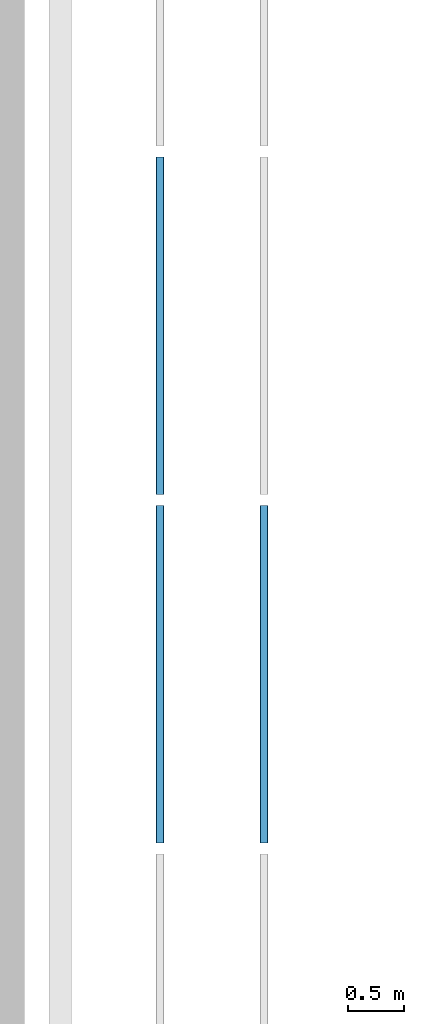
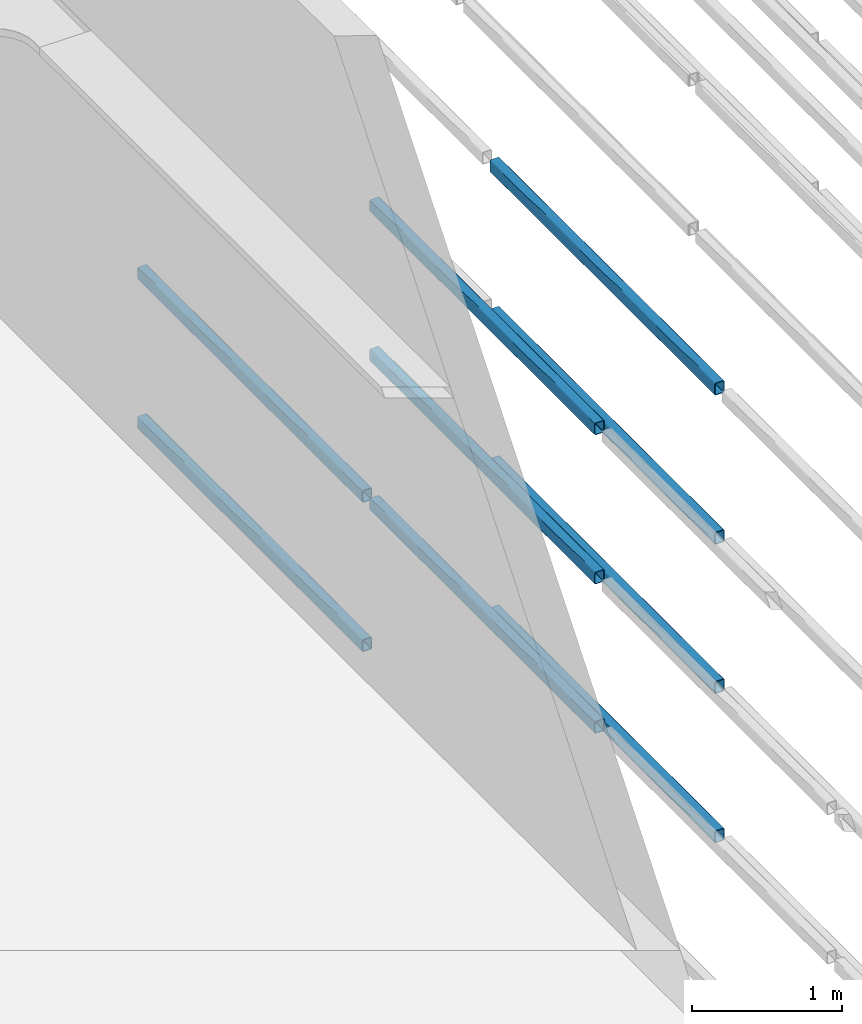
# One storey, part 10 of 290: 9 beams.
"""IFC2X3 building model written with IfcOpenShell, lengths in metres."""

from ifc_helpers import new_model, entity, si_unit, converted_unit, derived_unit, direction, frame, frame_2d, origin, place, context, subcontext, project, spatial, polyline, circle_curve, parameter, trimmed, segment, composite_curve, outline, extrude, material, type_object, element, save


model = new_model("IFC2X3")

# Units and contexts
model_context = context("Model", 3, precision=1e-05, world=origin(), true_north=direction((6.12303176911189e-17, 1.0)))
body_context = subcontext(model_context, "Body", "Model", "MODEL_VIEW")
ifc_project = project(units=[si_unit("LENGTHUNIT", "METRE"), si_unit("AREAUNIT", "SQUARE_METRE"), si_unit("VOLUMEUNIT", "CUBIC_METRE"), converted_unit("PLANEANGLEUNIT", "DEGREE", entity("IfcRatioMeasure", 0.0174532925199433), si_unit("PLANEANGLEUNIT", "RADIAN"), dimensions=[0, 0, 0, 0, 0, 0, 0]), si_unit("MASSUNIT", "GRAM", prefix="KILO"), derived_unit("MASSDENSITYUNIT", [(si_unit("MASSUNIT", "GRAM", prefix="KILO"), 1), (si_unit("LENGTHUNIT", "METRE"), -3)]), derived_unit("MOMENTOFINERTIAUNIT", [(si_unit("LENGTHUNIT", "METRE"), 4)]), si_unit("TIMEUNIT", "SECOND"), si_unit("FREQUENCYUNIT", "HERTZ"), si_unit("THERMODYNAMICTEMPERATUREUNIT", "DEGREE_CELSIUS"), derived_unit("THERMALTRANSMITTANCEUNIT", [(si_unit("MASSUNIT", "GRAM", prefix="KILO"), 1), (si_unit("THERMODYNAMICTEMPERATUREUNIT", "KELVIN"), -1), (si_unit("TIMEUNIT", "SECOND"), -3)]), derived_unit("VOLUMETRICFLOWRATEUNIT", [(si_unit("LENGTHUNIT", "METRE"), 3), (si_unit("TIMEUNIT", "SECOND"), -1)]), si_unit("ELECTRICCURRENTUNIT", "AMPERE"), si_unit("ELECTRICVOLTAGEUNIT", "VOLT"), si_unit("POWERUNIT", "WATT"), si_unit("FORCEUNIT", "NEWTON", prefix="KILO"), si_unit("ILLUMINANCEUNIT", "LUX"), si_unit("LUMINOUSFLUXUNIT", "LUMEN"), si_unit("LUMINOUSINTENSITYUNIT", "CANDELA"), derived_unit("USERDEFINED", [(si_unit("MASSUNIT", "GRAM", prefix="KILO"), -1), (si_unit("LENGTHUNIT", "METRE"), -2), (si_unit("TIMEUNIT", "SECOND"), 3), (si_unit("LUMINOUSFLUXUNIT", "LUMEN"), 1)]), derived_unit("LINEARVELOCITYUNIT", [(si_unit("LENGTHUNIT", "METRE"), 1), (si_unit("TIMEUNIT", "SECOND"), -1)]), si_unit("PRESSUREUNIT", "PASCAL"), derived_unit("USERDEFINED", [(si_unit("LENGTHUNIT", "METRE"), -2), (si_unit("MASSUNIT", "GRAM", prefix="KILO"), 1), (si_unit("TIMEUNIT", "SECOND"), -2)]), derived_unit("LINEARFORCEUNIT", [(si_unit("MASSUNIT", "GRAM", prefix="KILO"), 1), (si_unit("LENGTHUNIT", "METRE"), 1), (si_unit("TIMEUNIT", "SECOND"), -2), (si_unit("LENGTHUNIT", "METRE"), -1)]), derived_unit("PLANARFORCEUNIT", [(si_unit("MASSUNIT", "GRAM", prefix="KILO"), 1), (si_unit("LENGTHUNIT", "METRE"), 1), (si_unit("TIMEUNIT", "SECOND"), -2), (si_unit("LENGTHUNIT", "METRE"), -2)])], contexts=[model_context])

# Site, building, storey
site_placement = place(None, origin())
site = spatial("IfcSite", under=ifc_project, at=site_placement, Name="Default", CompositionType="ELEMENT")
building_placement = place(site_placement, origin())
building = spatial("IfcBuilding", under=site, at=building_placement, CompositionType="ELEMENT")
storey_placement = place(building_placement, frame((0.0, 0.0, 4.0)))
storey = spatial("IfcBuildingStorey", under=building, at=storey_placement, Name="01_OG", CompositionType="ELEMENT", Elevation=4.0)

# Beams
ifc_material = material(Name="Metall - Baustahl S235 blau")
beam_type = type_object("IfcBeamType", Name="RHS Träger (EN 10219-2):RHS 100 x 75 x 5", PredefinedType="NOTDEFINED")
beam_1_placement = place(storey_placement, frame((-206.415111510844, 30.248088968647, 0.0150000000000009), z_axis=(0.0, 0.0, 1.0), x_axis=(0.0, 1.0, 0.0)))
element("IfcBeam", 1, at=beam_1_placement, inside=storey, type_object=beam_type, material=ifc_material, Name="RHS Träger (EN 10219-2):RHS 100 x 75 x 5", ObjectType="RHS Träger (EN 10219-2):RHS 100 x 75 x 5", context=body_context, shape_type="SweptSolid", body=[
    extrude(outline(composite_curve([segment(trimmed(circle_curve(frame_2d((-0.0274999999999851, -0.0400000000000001), x_axis=(1.0, 0.0)), 0.01), [parameter(180.0)], [parameter(270.0)], True, "PARAMETER"), True, "CONTINUOUS"), segment(polyline([(-0.0274999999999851, -0.05), (0.0274999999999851, -0.05)]), True, "CONTINUOUS"), segment(trimmed(circle_curve(frame_2d((0.0274999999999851, -0.0400000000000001), x_axis=(1.0, 0.0)), 0.01), [parameter(270.0)], [parameter(5.08888749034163e-14)], True, "PARAMETER"), True, "CONTINUOUS"), segment(polyline([(0.0375000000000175, -0.0400000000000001), (0.0375000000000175, 0.0400000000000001)]), True, "CONTINUOUS"), segment(trimmed(circle_curve(frame_2d((0.0274999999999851, 0.0400000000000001), x_axis=(1.0, 0.0)), 0.01), [parameter(360.0)], [parameter(89.9999999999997)], True, "PARAMETER"), True, "CONTINUOUS"), segment(polyline([(0.0274999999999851, 0.05), (-0.0274999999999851, 0.05)]), True, "CONTINUOUS"), segment(trimmed(circle_curve(frame_2d((-0.0274999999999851, 0.0400000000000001), x_axis=(1.0, 0.0)), 0.01), [parameter(90.0000000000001)], [parameter(180.0)], True, "PARAMETER"), True, "CONTINUOUS"), segment(polyline([(-0.0374999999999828, 0.0400000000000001), (-0.0374999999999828, -0.0400000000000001)]), True, "CONTINUOUS")], self_intersect=False), holes=[composite_curve([segment(polyline([(0.0274999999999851, -0.0450000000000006), (-0.0274999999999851, -0.0450000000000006)]), True, "CONTINUOUS"), segment(trimmed(circle_curve(frame_2d((-0.0274999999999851, -0.0400000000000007), x_axis=(1.0, 0.0)), 0.005), [parameter(180.0)], [parameter(270.0)], True, "PARAMETER"), False, "CONTINUOUS"), segment(polyline([(-0.0325000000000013, -0.0400000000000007), (-0.0325000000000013, 0.039999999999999)]), True, "CONTINUOUS"), segment(trimmed(circle_curve(frame_2d((-0.0274999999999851, 0.039999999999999), x_axis=(1.0, 0.0)), 0.005), [parameter(90.0000000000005)], [parameter(180.0)], True, "PARAMETER"), False, "CONTINUOUS"), segment(polyline([(-0.0274999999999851, 0.044999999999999), (0.0274999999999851, 0.044999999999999)]), True, "CONTINUOUS"), segment(trimmed(circle_curve(frame_2d((0.0274999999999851, 0.039999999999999), x_axis=(1.0, 0.0)), 0.005), [parameter(0.0)], [parameter(90.0000000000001)], True, "PARAMETER"), False, "CONTINUOUS"), segment(polyline([(0.0325000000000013, 0.039999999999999), (0.0325000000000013, -0.0400000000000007)]), True, "CONTINUOUS"), segment(trimmed(circle_curve(frame_2d((0.0274999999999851, -0.0400000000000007), x_axis=(1.0, 0.0)), 0.005), [parameter(270.0)], [parameter(4.07110999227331e-13)], True, "PARAMETER"), False, "CONTINUOUS")], self_intersect=False)]), frame((9.9999999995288e-05, 0.0375000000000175, -0.0500000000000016), z_axis=(1.0, 0.0, 0.0), x_axis=(0.0, -1.0, 0.0)), (0.0, 0.0, 1.0), 2.9998),
])
beam_2_placement = place(storey_placement, frame((-206.415111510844, 30.248088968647, 1.23), z_axis=(0.0, 0.0, 1.0), x_axis=(0.0, 1.0, 0.0)))
element("IfcBeam", 2, at=beam_2_placement, inside=storey, type_object=beam_type, material=ifc_material, Name="RHS Träger (EN 10219-2):RHS 100 x 75 x 5", ObjectType="RHS Träger (EN 10219-2):RHS 100 x 75 x 5", context=body_context, shape_type="SweptSolid", body=[
    extrude(outline(composite_curve([segment(trimmed(circle_curve(frame_2d((-0.0274999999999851, -0.0399999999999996), x_axis=(1.0, 0.0)), 0.01), [parameter(180.0)], [parameter(270.0)], True, "PARAMETER"), True, "CONTINUOUS"), segment(polyline([(-0.0274999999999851, -0.0499999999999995), (0.0274999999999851, -0.0499999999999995)]), True, "CONTINUOUS"), segment(trimmed(circle_curve(frame_2d((0.0274999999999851, -0.0399999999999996), x_axis=(1.0, 0.0)), 0.01), [parameter(270.0)], [parameter(5.08888749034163e-14)], True, "PARAMETER"), True, "CONTINUOUS"), segment(polyline([(0.0375000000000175, -0.0399999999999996), (0.0375000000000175, 0.0399999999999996)]), True, "CONTINUOUS"), segment(trimmed(circle_curve(frame_2d((0.0274999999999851, 0.0399999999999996), x_axis=(1.0, 0.0)), 0.01), [parameter(360.0)], [parameter(89.9999999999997)], True, "PARAMETER"), True, "CONTINUOUS"), segment(polyline([(0.0274999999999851, 0.0500000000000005), (-0.0274999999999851, 0.0500000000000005)]), True, "CONTINUOUS"), segment(trimmed(circle_curve(frame_2d((-0.0274999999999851, 0.0399999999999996), x_axis=(1.0, 0.0)), 0.01), [parameter(90.0000000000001)], [parameter(180.0)], True, "PARAMETER"), True, "CONTINUOUS"), segment(polyline([(-0.0374999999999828, 0.0399999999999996), (-0.0374999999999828, -0.0399999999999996)]), True, "CONTINUOUS")], self_intersect=False), holes=[composite_curve([segment(polyline([(0.0274999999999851, -0.0450000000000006), (-0.0274999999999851, -0.0450000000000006)]), True, "CONTINUOUS"), segment(trimmed(circle_curve(frame_2d((-0.0274999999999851, -0.0400000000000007), x_axis=(1.0, 0.0)), 0.005), [parameter(180.0)], [parameter(270.0)], True, "PARAMETER"), False, "CONTINUOUS"), segment(polyline([(-0.0325000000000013, -0.0400000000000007), (-0.0325000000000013, 0.0399999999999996)]), True, "CONTINUOUS"), segment(trimmed(circle_curve(frame_2d((-0.0274999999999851, 0.0399999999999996), x_axis=(1.0, 0.0)), 0.005), [parameter(90.0000000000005)], [parameter(180.0)], True, "PARAMETER"), False, "CONTINUOUS"), segment(polyline([(-0.0274999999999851, 0.0449999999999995), (0.0274999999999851, 0.0449999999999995)]), True, "CONTINUOUS"), segment(trimmed(circle_curve(frame_2d((0.0274999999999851, 0.0399999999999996), x_axis=(1.0, 0.0)), 0.005), [parameter(0.0)], [parameter(90.0000000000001)], True, "PARAMETER"), False, "CONTINUOUS"), segment(polyline([(0.0325000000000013, 0.0399999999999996), (0.0325000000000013, -0.0400000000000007)]), True, "CONTINUOUS"), segment(trimmed(circle_curve(frame_2d((0.0274999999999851, -0.0400000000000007), x_axis=(1.0, 0.0)), 0.005), [parameter(270.0)], [parameter(4.07110999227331e-13)], True, "PARAMETER"), False, "CONTINUOUS")], self_intersect=False)]), frame((9.99999999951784e-05, 0.0375000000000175, -0.0500000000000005), z_axis=(1.0, 0.0, 0.0), x_axis=(0.0, -1.0, 0.0)), (0.0, 0.0, 1.0), 2.9998),
])
beam_3_placement = place(storey_placement, frame((-206.415111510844, 30.248088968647, 2.445), z_axis=(0.0, 0.0, 1.0), x_axis=(0.0, 1.0, 0.0)))
element("IfcBeam", 3, at=beam_3_placement, inside=storey, type_object=beam_type, material=ifc_material, Name="RHS Träger (EN 10219-2):RHS 100 x 75 x 5", ObjectType="RHS Träger (EN 10219-2):RHS 100 x 75 x 5", context=body_context, shape_type="SweptSolid", body=[
    extrude(outline(composite_curve([segment(trimmed(circle_curve(frame_2d((-0.0274999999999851, -0.0399999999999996), x_axis=(1.0, 0.0)), 0.01), [parameter(180.0)], [parameter(270.0)], True, "PARAMETER"), True, "CONTINUOUS"), segment(polyline([(-0.0274999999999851, -0.0499999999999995), (0.0274999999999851, -0.0499999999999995)]), True, "CONTINUOUS"), segment(trimmed(circle_curve(frame_2d((0.0274999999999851, -0.0399999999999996), x_axis=(1.0, 0.0)), 0.01), [parameter(270.0)], [parameter(5.08888749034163e-14)], True, "PARAMETER"), True, "CONTINUOUS"), segment(polyline([(0.0375000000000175, -0.0399999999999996), (0.0375000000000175, 0.0399999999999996)]), True, "CONTINUOUS"), segment(trimmed(circle_curve(frame_2d((0.0274999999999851, 0.0399999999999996), x_axis=(1.0, 0.0)), 0.01), [parameter(360.0)], [parameter(89.9999999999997)], True, "PARAMETER"), True, "CONTINUOUS"), segment(polyline([(0.0274999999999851, 0.0500000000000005), (-0.0274999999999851, 0.0500000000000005)]), True, "CONTINUOUS"), segment(trimmed(circle_curve(frame_2d((-0.0274999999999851, 0.0399999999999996), x_axis=(1.0, 0.0)), 0.01), [parameter(90.0000000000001)], [parameter(180.0)], True, "PARAMETER"), True, "CONTINUOUS"), segment(polyline([(-0.0374999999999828, 0.0399999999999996), (-0.0374999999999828, -0.0399999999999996)]), True, "CONTINUOUS")], self_intersect=False), holes=[composite_curve([segment(polyline([(0.0274999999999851, -0.0450000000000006), (-0.0274999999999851, -0.0450000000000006)]), True, "CONTINUOUS"), segment(trimmed(circle_curve(frame_2d((-0.0274999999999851, -0.0400000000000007), x_axis=(1.0, 0.0)), 0.005), [parameter(180.0)], [parameter(270.0)], True, "PARAMETER"), False, "CONTINUOUS"), segment(polyline([(-0.0325000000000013, -0.0400000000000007), (-0.0325000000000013, 0.0399999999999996)]), True, "CONTINUOUS"), segment(trimmed(circle_curve(frame_2d((-0.0274999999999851, 0.0399999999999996), x_axis=(1.0, 0.0)), 0.005), [parameter(90.0000000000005)], [parameter(180.0)], True, "PARAMETER"), False, "CONTINUOUS"), segment(polyline([(-0.0274999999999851, 0.0449999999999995), (0.0274999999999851, 0.0449999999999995)]), True, "CONTINUOUS"), segment(trimmed(circle_curve(frame_2d((0.0274999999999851, 0.0399999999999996), x_axis=(1.0, 0.0)), 0.005), [parameter(0.0)], [parameter(90.0000000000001)], True, "PARAMETER"), False, "CONTINUOUS"), segment(polyline([(0.0325000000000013, 0.0399999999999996), (0.0325000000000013, -0.0400000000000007)]), True, "CONTINUOUS"), segment(trimmed(circle_curve(frame_2d((0.0274999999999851, -0.0400000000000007), x_axis=(1.0, 0.0)), 0.005), [parameter(270.0)], [parameter(4.07110999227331e-13)], True, "PARAMETER"), False, "CONTINUOUS")], self_intersect=False)]), frame((9.99999999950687e-05, 0.0375000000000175, -0.0500000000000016), z_axis=(1.0, 0.0, 0.0), x_axis=(0.0, -1.0, 0.0)), (0.0, 0.0, 1.0), 2.9998),
])
beam_4_placement = place(storey_placement, frame((-205.565111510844, 30.248088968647, -1.2), z_axis=(0.0, 0.0, 1.0), x_axis=(0.0, 1.0, 0.0)))
element("IfcBeam", 4, at=beam_4_placement, inside=storey, type_object=beam_type, material=ifc_material, Name="RHS Träger (EN 10219-2):RHS 100 x 75 x 5", ObjectType="RHS Träger (EN 10219-2):RHS 100 x 75 x 5", context=body_context, shape_type="SweptSolid", body=[
    extrude(outline(composite_curve([segment(polyline([(-0.0400000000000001, -0.0374999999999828), (0.0400000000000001, -0.0374999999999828)]), True, "CONTINUOUS"), segment(trimmed(circle_curve(frame_2d((0.0400000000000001, -0.0274999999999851), x_axis=(0.0, 1.0)), 0.01), [parameter(180.0)], [parameter(270.0)], True, "PARAMETER"), True, "CONTINUOUS"), segment(polyline([(0.05, -0.0274999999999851), (0.05, 0.0274999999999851)]), True, "CONTINUOUS"), segment(trimmed(circle_curve(frame_2d((0.0400000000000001, 0.0274999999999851), x_axis=(0.0, 1.0)), 0.01), [parameter(270.0)], [parameter(4.07110999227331e-13)], True, "PARAMETER"), True, "CONTINUOUS"), segment(polyline([(0.0400000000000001, 0.0375000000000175), (-0.0400000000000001, 0.0375000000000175)]), True, "CONTINUOUS"), segment(trimmed(circle_curve(frame_2d((-0.0400000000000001, 0.0274999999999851), x_axis=(0.0, 1.0)), 0.01), [parameter(360.0)], [parameter(90.0000000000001)], True, "PARAMETER"), True, "CONTINUOUS"), segment(polyline([(-0.05, 0.0274999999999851), (-0.05, -0.0274999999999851)]), True, "CONTINUOUS"), segment(trimmed(circle_curve(frame_2d((-0.0400000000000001, -0.0274999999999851), x_axis=(0.0, 1.0)), 0.01), [parameter(90.0000000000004)], [parameter(180.0)], True, "PARAMETER"), True, "CONTINUOUS")], self_intersect=False), holes=[composite_curve([segment(trimmed(circle_curve(frame_2d((-0.0400000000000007, 0.0274999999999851), x_axis=(0.0, 1.0)), 0.005), [parameter(360.0)], [parameter(89.9999999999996)], True, "PARAMETER"), False, "CONTINUOUS"), segment(polyline([(-0.0400000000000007, 0.0325000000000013), (0.039999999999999, 0.0325000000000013)]), True, "CONTINUOUS"), segment(trimmed(circle_curve(frame_2d((0.039999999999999, 0.0274999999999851), x_axis=(0.0, 1.0)), 0.005), [parameter(270.0)], [parameter(0.0)], True, "PARAMETER"), False, "CONTINUOUS"), segment(polyline([(0.044999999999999, 0.0274999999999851), (0.044999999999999, -0.0274999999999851)]), True, "CONTINUOUS"), segment(trimmed(circle_curve(frame_2d((0.039999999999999, -0.0274999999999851), x_axis=(0.0, 1.0)), 0.005), [parameter(180.0)], [parameter(269.999999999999)], True, "PARAMETER"), False, "CONTINUOUS"), segment(polyline([(0.039999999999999, -0.0325000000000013), (-0.0400000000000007, -0.0325000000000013)]), True, "CONTINUOUS"), segment(trimmed(circle_curve(frame_2d((-0.0400000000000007, -0.0274999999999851), x_axis=(0.0, 1.0)), 0.005), [parameter(90.0000000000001)], [parameter(180.0)], True, "PARAMETER"), False, "CONTINUOUS"), segment(polyline([(-0.0450000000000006, -0.0274999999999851), (-0.0450000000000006, 0.0274999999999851)]), True, "CONTINUOUS")], self_intersect=False)]), frame((9.99999999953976e-05, -0.0375000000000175, -0.0500000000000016), z_axis=(1.0, 0.0, 0.0), x_axis=(0.0, 0.0, -1.0)), (0.0, 0.0, 1.0), 2.9998),
])
beam_5_placement = place(storey_placement, frame((-205.565111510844, 30.248088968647, 0.0150000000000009), z_axis=(0.0, 0.0, 1.0), x_axis=(0.0, 1.0, 0.0)))
element("IfcBeam", 5, at=beam_5_placement, inside=storey, type_object=beam_type, material=ifc_material, Name="RHS Träger (EN 10219-2):RHS 100 x 75 x 5", ObjectType="RHS Träger (EN 10219-2):RHS 100 x 75 x 5", context=body_context, shape_type="SweptSolid", body=[
    extrude(outline(composite_curve([segment(polyline([(-0.0400000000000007, -0.0374999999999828), (0.0399999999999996, -0.0374999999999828)]), True, "CONTINUOUS"), segment(trimmed(circle_curve(frame_2d((0.0399999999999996, -0.0274999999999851), x_axis=(0.0, 1.0)), 0.01), [parameter(180.0)], [parameter(270.0)], True, "PARAMETER"), True, "CONTINUOUS"), segment(polyline([(0.0499999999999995, -0.0274999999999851), (0.0499999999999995, 0.0274999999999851)]), True, "CONTINUOUS"), segment(trimmed(circle_curve(frame_2d((0.0399999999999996, 0.0274999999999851), x_axis=(0.0, 1.0)), 0.01), [parameter(270.0)], [parameter(4.07110999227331e-13)], True, "PARAMETER"), True, "CONTINUOUS"), segment(polyline([(0.0399999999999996, 0.0375000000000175), (-0.0400000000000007, 0.0375000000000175)]), True, "CONTINUOUS"), segment(trimmed(circle_curve(frame_2d((-0.0400000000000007, 0.0274999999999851), x_axis=(0.0, 1.0)), 0.01), [parameter(360.0)], [parameter(90.0000000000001)], True, "PARAMETER"), True, "CONTINUOUS"), segment(polyline([(-0.0500000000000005, 0.0274999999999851), (-0.0500000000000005, -0.0274999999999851)]), True, "CONTINUOUS"), segment(trimmed(circle_curve(frame_2d((-0.0400000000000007, -0.0274999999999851), x_axis=(0.0, 1.0)), 0.01), [parameter(90.0000000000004)], [parameter(180.0)], True, "PARAMETER"), True, "CONTINUOUS")], self_intersect=False), holes=[composite_curve([segment(trimmed(circle_curve(frame_2d((-0.0400000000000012, 0.0274999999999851), x_axis=(0.0, 1.0)), 0.005), [parameter(360.0)], [parameter(89.9999999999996)], True, "PARAMETER"), False, "CONTINUOUS"), segment(polyline([(-0.0400000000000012, 0.0325000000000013), (0.0399999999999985, 0.0325000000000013)]), True, "CONTINUOUS"), segment(trimmed(circle_curve(frame_2d((0.0399999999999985, 0.0274999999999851), x_axis=(0.0, 1.0)), 0.005), [parameter(270.0)], [parameter(0.0)], True, "PARAMETER"), False, "CONTINUOUS"), segment(polyline([(0.0449999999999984, 0.0274999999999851), (0.0449999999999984, -0.0274999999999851)]), True, "CONTINUOUS"), segment(trimmed(circle_curve(frame_2d((0.0399999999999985, -0.0274999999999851), x_axis=(0.0, 1.0)), 0.005), [parameter(180.0)], [parameter(269.999999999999)], True, "PARAMETER"), False, "CONTINUOUS"), segment(polyline([(0.0399999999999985, -0.0325000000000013), (-0.0400000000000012, -0.0325000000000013)]), True, "CONTINUOUS"), segment(trimmed(circle_curve(frame_2d((-0.0400000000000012, -0.0274999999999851), x_axis=(0.0, 1.0)), 0.005), [parameter(90.0000000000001)], [parameter(180.0)], True, "PARAMETER"), False, "CONTINUOUS"), segment(polyline([(-0.0450000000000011, -0.0274999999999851), (-0.0450000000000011, 0.0274999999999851)]), True, "CONTINUOUS")], self_intersect=False)]), frame((9.9999999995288e-05, -0.0375000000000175, -0.0500000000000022), z_axis=(1.0, 0.0, 0.0), x_axis=(0.0, 0.0, -1.0)), (0.0, 0.0, 1.0), 2.9998),
])
beam_6_placement = place(storey_placement, frame((-205.565111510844, 30.248088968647, 1.23), z_axis=(0.0, 0.0, 1.0), x_axis=(0.0, 1.0, 0.0)))
element("IfcBeam", 6, at=beam_6_placement, inside=storey, type_object=beam_type, material=ifc_material, Name="RHS Träger (EN 10219-2):RHS 100 x 75 x 5", ObjectType="RHS Träger (EN 10219-2):RHS 100 x 75 x 5", context=body_context, shape_type="SweptSolid", body=[
    extrude(outline(composite_curve([segment(polyline([(-0.0399999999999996, -0.0374999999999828), (0.0399999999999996, -0.0374999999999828)]), True, "CONTINUOUS"), segment(trimmed(circle_curve(frame_2d((0.0399999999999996, -0.0274999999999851), x_axis=(0.0, 1.0)), 0.01), [parameter(180.0)], [parameter(270.0)], True, "PARAMETER"), True, "CONTINUOUS"), segment(polyline([(0.0500000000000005, -0.0274999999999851), (0.0500000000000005, 0.0274999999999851)]), True, "CONTINUOUS"), segment(trimmed(circle_curve(frame_2d((0.0399999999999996, 0.0274999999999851), x_axis=(0.0, 1.0)), 0.01), [parameter(270.0)], [parameter(4.07110999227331e-13)], True, "PARAMETER"), True, "CONTINUOUS"), segment(polyline([(0.0399999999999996, 0.0375000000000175), (-0.0399999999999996, 0.0375000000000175)]), True, "CONTINUOUS"), segment(trimmed(circle_curve(frame_2d((-0.0399999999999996, 0.0274999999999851), x_axis=(0.0, 1.0)), 0.01), [parameter(360.0)], [parameter(90.0000000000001)], True, "PARAMETER"), True, "CONTINUOUS"), segment(polyline([(-0.0499999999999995, 0.0274999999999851), (-0.0499999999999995, -0.0274999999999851)]), True, "CONTINUOUS"), segment(trimmed(circle_curve(frame_2d((-0.0399999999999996, -0.0274999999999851), x_axis=(0.0, 1.0)), 0.01), [parameter(90.0000000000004)], [parameter(180.0)], True, "PARAMETER"), True, "CONTINUOUS")], self_intersect=False), holes=[composite_curve([segment(trimmed(circle_curve(frame_2d((-0.0400000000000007, 0.0274999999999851), x_axis=(0.0, 1.0)), 0.005), [parameter(360.0)], [parameter(89.9999999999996)], True, "PARAMETER"), False, "CONTINUOUS"), segment(polyline([(-0.0400000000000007, 0.0325000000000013), (0.0399999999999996, 0.0325000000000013)]), True, "CONTINUOUS"), segment(trimmed(circle_curve(frame_2d((0.0399999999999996, 0.0274999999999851), x_axis=(0.0, 1.0)), 0.005), [parameter(270.0)], [parameter(0.0)], True, "PARAMETER"), False, "CONTINUOUS"), segment(polyline([(0.0449999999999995, 0.0274999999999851), (0.0449999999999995, -0.0274999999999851)]), True, "CONTINUOUS"), segment(trimmed(circle_curve(frame_2d((0.0399999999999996, -0.0274999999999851), x_axis=(0.0, 1.0)), 0.005), [parameter(180.0)], [parameter(269.999999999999)], True, "PARAMETER"), False, "CONTINUOUS"), segment(polyline([(0.0399999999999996, -0.0325000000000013), (-0.0400000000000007, -0.0325000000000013)]), True, "CONTINUOUS"), segment(trimmed(circle_curve(frame_2d((-0.0400000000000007, -0.0274999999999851), x_axis=(0.0, 1.0)), 0.005), [parameter(90.0000000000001)], [parameter(180.0)], True, "PARAMETER"), False, "CONTINUOUS"), segment(polyline([(-0.0450000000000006, -0.0274999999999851), (-0.0450000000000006, 0.0274999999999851)]), True, "CONTINUOUS")], self_intersect=False)]), frame((9.99999999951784e-05, -0.0375000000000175, -0.0500000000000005), z_axis=(1.0, 0.0, 0.0), x_axis=(0.0, 0.0, -1.0)), (0.0, 0.0, 1.0), 2.9998),
])
beam_7_placement = place(storey_placement, frame((-205.565111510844, 30.248088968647, 2.445), z_axis=(0.0, 0.0, 1.0), x_axis=(0.0, 1.0, 0.0)))
element("IfcBeam", 7, at=beam_7_placement, inside=storey, type_object=beam_type, material=ifc_material, Name="RHS Träger (EN 10219-2):RHS 100 x 75 x 5", ObjectType="RHS Träger (EN 10219-2):RHS 100 x 75 x 5", context=body_context, shape_type="SweptSolid", body=[
    extrude(outline(composite_curve([segment(polyline([(-0.0399999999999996, -0.0374999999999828), (0.0399999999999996, -0.0374999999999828)]), True, "CONTINUOUS"), segment(trimmed(circle_curve(frame_2d((0.0399999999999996, -0.0274999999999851), x_axis=(0.0, 1.0)), 0.01), [parameter(180.0)], [parameter(270.0)], True, "PARAMETER"), True, "CONTINUOUS"), segment(polyline([(0.0500000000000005, -0.0274999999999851), (0.0500000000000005, 0.0274999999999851)]), True, "CONTINUOUS"), segment(trimmed(circle_curve(frame_2d((0.0399999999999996, 0.0274999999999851), x_axis=(0.0, 1.0)), 0.01), [parameter(270.0)], [parameter(4.07110999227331e-13)], True, "PARAMETER"), True, "CONTINUOUS"), segment(polyline([(0.0399999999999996, 0.0375000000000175), (-0.0399999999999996, 0.0375000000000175)]), True, "CONTINUOUS"), segment(trimmed(circle_curve(frame_2d((-0.0399999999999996, 0.0274999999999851), x_axis=(0.0, 1.0)), 0.01), [parameter(360.0)], [parameter(90.0000000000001)], True, "PARAMETER"), True, "CONTINUOUS"), segment(polyline([(-0.0499999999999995, 0.0274999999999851), (-0.0499999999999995, -0.0274999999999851)]), True, "CONTINUOUS"), segment(trimmed(circle_curve(frame_2d((-0.0399999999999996, -0.0274999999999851), x_axis=(0.0, 1.0)), 0.01), [parameter(90.0000000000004)], [parameter(180.0)], True, "PARAMETER"), True, "CONTINUOUS")], self_intersect=False), holes=[composite_curve([segment(trimmed(circle_curve(frame_2d((-0.0400000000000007, 0.0274999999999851), x_axis=(0.0, 1.0)), 0.005), [parameter(360.0)], [parameter(89.9999999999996)], True, "PARAMETER"), False, "CONTINUOUS"), segment(polyline([(-0.0400000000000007, 0.0325000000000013), (0.0399999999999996, 0.0325000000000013)]), True, "CONTINUOUS"), segment(trimmed(circle_curve(frame_2d((0.0399999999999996, 0.0274999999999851), x_axis=(0.0, 1.0)), 0.005), [parameter(270.0)], [parameter(0.0)], True, "PARAMETER"), False, "CONTINUOUS"), segment(polyline([(0.0449999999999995, 0.0274999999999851), (0.0449999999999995, -0.0274999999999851)]), True, "CONTINUOUS"), segment(trimmed(circle_curve(frame_2d((0.0399999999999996, -0.0274999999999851), x_axis=(0.0, 1.0)), 0.005), [parameter(180.0)], [parameter(269.999999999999)], True, "PARAMETER"), False, "CONTINUOUS"), segment(polyline([(0.0399999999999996, -0.0325000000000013), (-0.0400000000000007, -0.0325000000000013)]), True, "CONTINUOUS"), segment(trimmed(circle_curve(frame_2d((-0.0400000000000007, -0.0274999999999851), x_axis=(0.0, 1.0)), 0.005), [parameter(90.0000000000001)], [parameter(180.0)], True, "PARAMETER"), False, "CONTINUOUS"), segment(polyline([(-0.0450000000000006, -0.0274999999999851), (-0.0450000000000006, 0.0274999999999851)]), True, "CONTINUOUS")], self_intersect=False)]), frame((9.99999999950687e-05, -0.0375000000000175, -0.0500000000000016), z_axis=(1.0, 0.0, 0.0), x_axis=(0.0, 0.0, -1.0)), (0.0, 0.0, 1.0), 2.9998),
])
beam_8_placement = place(storey_placement, frame((-206.415111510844, 33.348088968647, -1.2), z_axis=(0.0, 0.0, 1.0), x_axis=(0.0, 1.0, 0.0)))
element("IfcBeam", 8, at=beam_8_placement, inside=storey, type_object=beam_type, material=ifc_material, Name="RHS Träger (EN 10219-2):RHS 100 x 75 x 5", ObjectType="RHS Träger (EN 10219-2):RHS 100 x 75 x 5", context=body_context, shape_type="SweptSolid", body=[
    extrude(outline(composite_curve([segment(trimmed(circle_curve(frame_2d((-0.0274999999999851, -0.0400000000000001), x_axis=(1.0, 0.0)), 0.01), [parameter(180.0)], [parameter(270.0)], True, "PARAMETER"), True, "CONTINUOUS"), segment(polyline([(-0.0274999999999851, -0.05), (0.0274999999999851, -0.05)]), True, "CONTINUOUS"), segment(trimmed(circle_curve(frame_2d((0.0274999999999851, -0.0400000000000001), x_axis=(1.0, 0.0)), 0.01), [parameter(270.0)], [parameter(5.08888749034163e-14)], True, "PARAMETER"), True, "CONTINUOUS"), segment(polyline([(0.0375000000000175, -0.0400000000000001), (0.0375000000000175, 0.0400000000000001)]), True, "CONTINUOUS"), segment(trimmed(circle_curve(frame_2d((0.0274999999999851, 0.0400000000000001), x_axis=(1.0, 0.0)), 0.01), [parameter(360.0)], [parameter(89.9999999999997)], True, "PARAMETER"), True, "CONTINUOUS"), segment(polyline([(0.0274999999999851, 0.05), (-0.0274999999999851, 0.05)]), True, "CONTINUOUS"), segment(trimmed(circle_curve(frame_2d((-0.0274999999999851, 0.0400000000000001), x_axis=(1.0, 0.0)), 0.01), [parameter(90.0000000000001)], [parameter(180.0)], True, "PARAMETER"), True, "CONTINUOUS"), segment(polyline([(-0.0374999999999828, 0.0400000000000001), (-0.0374999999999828, -0.0400000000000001)]), True, "CONTINUOUS")], self_intersect=False), holes=[composite_curve([segment(polyline([(0.0274999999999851, -0.0450000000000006), (-0.0274999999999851, -0.0450000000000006)]), True, "CONTINUOUS"), segment(trimmed(circle_curve(frame_2d((-0.0274999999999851, -0.0400000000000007), x_axis=(1.0, 0.0)), 0.005), [parameter(180.0)], [parameter(270.0)], True, "PARAMETER"), False, "CONTINUOUS"), segment(polyline([(-0.0325000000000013, -0.0400000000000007), (-0.0325000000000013, 0.039999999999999)]), True, "CONTINUOUS"), segment(trimmed(circle_curve(frame_2d((-0.0274999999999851, 0.039999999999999), x_axis=(1.0, 0.0)), 0.005), [parameter(90.0000000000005)], [parameter(180.0)], True, "PARAMETER"), False, "CONTINUOUS"), segment(polyline([(-0.0274999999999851, 0.044999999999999), (0.0274999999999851, 0.044999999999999)]), True, "CONTINUOUS"), segment(trimmed(circle_curve(frame_2d((0.0274999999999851, 0.039999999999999), x_axis=(1.0, 0.0)), 0.005), [parameter(0.0)], [parameter(90.0000000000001)], True, "PARAMETER"), False, "CONTINUOUS"), segment(polyline([(0.0325000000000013, 0.039999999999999), (0.0325000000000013, -0.0400000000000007)]), True, "CONTINUOUS"), segment(trimmed(circle_curve(frame_2d((0.0274999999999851, -0.0400000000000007), x_axis=(1.0, 0.0)), 0.005), [parameter(270.0)], [parameter(4.07110999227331e-13)], True, "PARAMETER"), False, "CONTINUOUS")], self_intersect=False)]), frame((9.99999999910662e-05, 0.0375000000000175, -0.0500000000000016), z_axis=(1.0, 0.0, 0.0), x_axis=(0.0, -1.0, 0.0)), (0.0, 0.0, 1.0), 2.9998),
])
beam_9_placement = place(storey_placement, frame((-206.415111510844, 33.348088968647, 0.0150000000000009), z_axis=(0.0, 0.0, 1.0), x_axis=(0.0, 1.0, 0.0)))
element("IfcBeam", 9, at=beam_9_placement, inside=storey, type_object=beam_type, material=ifc_material, Name="RHS Träger (EN 10219-2):RHS 100 x 75 x 5", ObjectType="RHS Träger (EN 10219-2):RHS 100 x 75 x 5", context=body_context, shape_type="SweptSolid", body=[
    extrude(outline(composite_curve([segment(trimmed(circle_curve(frame_2d((-0.0274999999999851, -0.0400000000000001), x_axis=(1.0, 0.0)), 0.01), [parameter(180.0)], [parameter(270.0)], True, "PARAMETER"), True, "CONTINUOUS"), segment(polyline([(-0.0274999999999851, -0.05), (0.0274999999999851, -0.05)]), True, "CONTINUOUS"), segment(trimmed(circle_curve(frame_2d((0.0274999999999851, -0.0400000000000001), x_axis=(1.0, 0.0)), 0.01), [parameter(270.0)], [parameter(5.08888749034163e-14)], True, "PARAMETER"), True, "CONTINUOUS"), segment(polyline([(0.0375000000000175, -0.0400000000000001), (0.0375000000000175, 0.0400000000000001)]), True, "CONTINUOUS"), segment(trimmed(circle_curve(frame_2d((0.0274999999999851, 0.0400000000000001), x_axis=(1.0, 0.0)), 0.01), [parameter(360.0)], [parameter(89.9999999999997)], True, "PARAMETER"), True, "CONTINUOUS"), segment(polyline([(0.0274999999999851, 0.05), (-0.0274999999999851, 0.05)]), True, "CONTINUOUS"), segment(trimmed(circle_curve(frame_2d((-0.0274999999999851, 0.0400000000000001), x_axis=(1.0, 0.0)), 0.01), [parameter(90.0000000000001)], [parameter(180.0)], True, "PARAMETER"), True, "CONTINUOUS"), segment(polyline([(-0.0374999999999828, 0.0400000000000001), (-0.0374999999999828, -0.0400000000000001)]), True, "CONTINUOUS")], self_intersect=False), holes=[composite_curve([segment(polyline([(0.0274999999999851, -0.0450000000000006), (-0.0274999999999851, -0.0450000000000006)]), True, "CONTINUOUS"), segment(trimmed(circle_curve(frame_2d((-0.0274999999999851, -0.0400000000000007), x_axis=(1.0, 0.0)), 0.005), [parameter(180.0)], [parameter(270.0)], True, "PARAMETER"), False, "CONTINUOUS"), segment(polyline([(-0.0325000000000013, -0.0400000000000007), (-0.0325000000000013, 0.039999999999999)]), True, "CONTINUOUS"), segment(trimmed(circle_curve(frame_2d((-0.0274999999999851, 0.039999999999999), x_axis=(1.0, 0.0)), 0.005), [parameter(90.0000000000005)], [parameter(180.0)], True, "PARAMETER"), False, "CONTINUOUS"), segment(polyline([(-0.0274999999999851, 0.044999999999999), (0.0274999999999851, 0.044999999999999)]), True, "CONTINUOUS"), segment(trimmed(circle_curve(frame_2d((0.0274999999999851, 0.039999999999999), x_axis=(1.0, 0.0)), 0.005), [parameter(0.0)], [parameter(90.0000000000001)], True, "PARAMETER"), False, "CONTINUOUS"), segment(polyline([(0.0325000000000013, 0.039999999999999), (0.0325000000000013, -0.0400000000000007)]), True, "CONTINUOUS"), segment(trimmed(circle_curve(frame_2d((0.0274999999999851, -0.0400000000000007), x_axis=(1.0, 0.0)), 0.005), [parameter(270.0)], [parameter(4.07110999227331e-13)], True, "PARAMETER"), False, "CONTINUOUS")], self_intersect=False)]), frame((9.99999999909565e-05, 0.0375000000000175, -0.0500000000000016), z_axis=(1.0, 0.0, 0.0), x_axis=(0.0, -1.0, 0.0)), (0.0, 0.0, 1.0), 2.9998),
])

save(model, "model.ifc")
